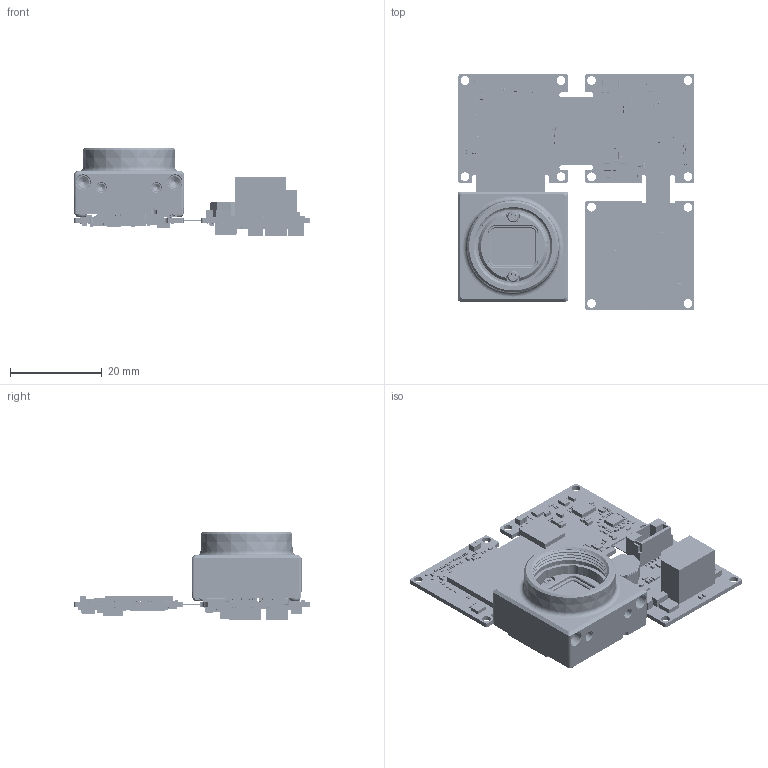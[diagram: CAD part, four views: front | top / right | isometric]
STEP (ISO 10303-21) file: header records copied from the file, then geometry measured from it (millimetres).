
FILE_DESCRIPTION (( 'STEP AP203' ), '1' );
FILE_NAME ('128-256-A.STEP', '2018-09-14T23:51:13', ( '' ), ( '' ), 'SwSTEP 2.0', 'SolidWorks 2017', '' );
FILE_SCHEMA (( 'CONFIG_CONTROL_DESIGN' ));
Products named in the file (1): 128-256-A
Bounding box: 51.61 x 51.45 x 19.33 mm (x, y, z)
Surface area: 14535.2 mm2 (no closed solid volume)
Topology: 0 solids, 672 shells, 22080 faces, 51677 edges, 27326 vertices
Faces by surface type: plane 9487, cylinder 8151, bspline 4305, cone 102, torus 33, sphere 2
Full cylindrical faces by diameter (mm): 0.099 x1, 0.177 x1, 0.206 x2, 1 x2, 1.05 x1, 1.1 x2, 1.2 x1, 1.35 x6, 1.6 x4, 1.7 x10, 1.8 x4, 1.9 x16, 2 x4, 2.5 x4, 3 x4, 17.05 x1
Entity records: 631132 total; most frequent: CARTESIAN_POINT 165612, DIRECTION 98368, ORIENTED_EDGE 94520, EDGE_CURVE 47262, AXIS2_PLACEMENT_3D 33993, VECTOR 30382, LINE 30382, VERTEX_POINT 27286
